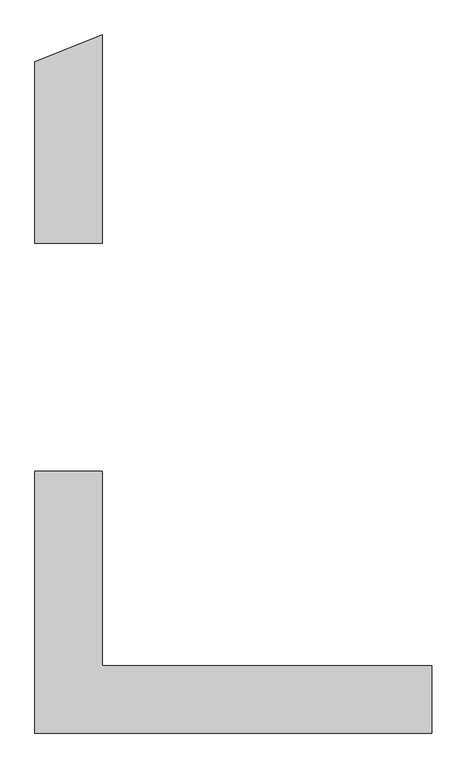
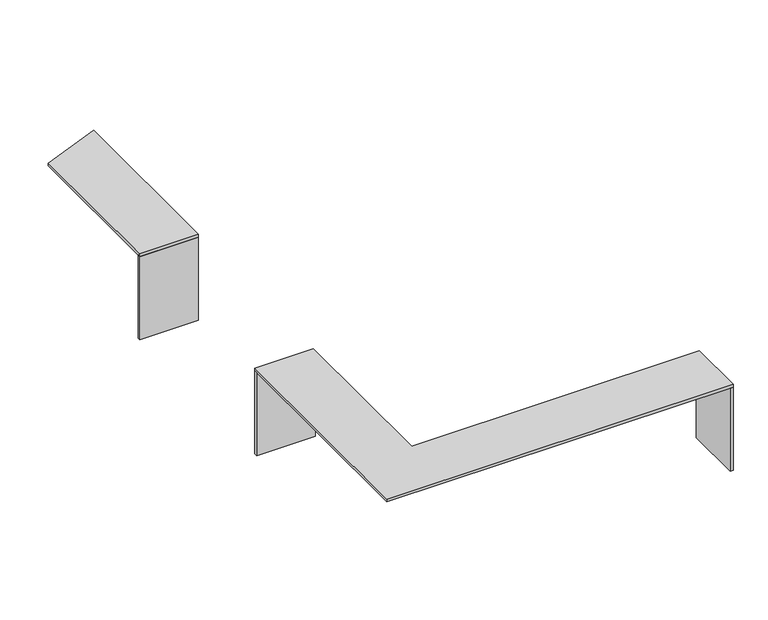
"""IFC4 building model written with IfcOpenShell, lengths in millimetres: furniture geometry, BIMHealth-MRI_Benching-LOD2A-v1 : BIMHealth-MRI_Benching-LOD2A-v1."""

import ifcopenshell
import ifcopenshell.guid

model = None  # the IFC model being written
_history = None  # IfcOwnerHistory: only IFC2X3 demands one
_inside = {}  # id of a spatial element -> (the spatial element, [elements in it])
_under = {}  # id of a project, library or spatial element -> (it, [spatial elements below it])
_declared = {}  # id of a project -> (the project, [libraries it declares])
_typed = {}  # id of a type object -> (the type object, [elements of that type])
_made_of = {}  # id of a material, layer set ... -> (it, [elements and type objects made of it])


def new_model(schema):
    """Start an empty IFC model of exactly this schema.

    Asked for "IFC4X3", IfcOpenShell would pick the latest addendum, in which some entities
    have other attributes; the version numbers below select the first issue.
    IFC2X3 requires an IfcOwnerHistory on every rooted entity: one is made here for all.
    """
    global model, _history
    if schema == "IFC4X3":
        model = ifcopenshell.file(schema_version=(4, 3, 0, 0))
    else:
        model = ifcopenshell.file(schema=schema)
    _inside.clear()
    _under.clear()
    _declared.clear()
    _typed.clear()
    _made_of.clear()
    _history = None
    if model.schema == "IFC2X3":
        org = make("IfcOrganization", Name="unknown")
        user = make(
            "IfcPersonAndOrganization",
            ThePerson=make("IfcPerson", FamilyName="unknown"),
            TheOrganization=org,
        )
        app = make(
            "IfcApplication",
            ApplicationDeveloper=org,
            Version="unknown",
            ApplicationFullName="unknown",
            ApplicationIdentifier="unknown",
        )
        _history = make(
            "IfcOwnerHistory",
            OwningUser=user,
            OwningApplication=app,
            ChangeAction="ADDED",
            CreationDate=0,
        )
    return model


def make(cls, **values):
    """One entity of the class cls with the attributes given. An attribute that is None is left unset."""
    return model.create_entity(
        cls, **{name: value for name, value in values.items() if value is not None}
    )


def rooted(cls, **values):
    """An entity with a GlobalId (a new one), such as an element, a storey or a relation."""
    return make(cls, GlobalId=ifcopenshell.guid.new(), OwnerHistory=_history, **values)


def si_unit(unit_type, name, prefix=None):
    """IfcSIUnit, for example si_unit("LENGTHUNIT", "METRE", prefix="MILLI")."""
    return make("IfcSIUnit", UnitType=unit_type, Prefix=prefix, Name=name)


def assignment(units):
    """IfcUnitAssignment: the units of a project."""
    return None if units is None else make("IfcUnitAssignment", Units=units)


def point(xyz):
    """IfcCartesianPoint."""
    return None if xyz is None else make("IfcCartesianPoint", Coordinates=xyz)


def direction(xyz):
    """IfcDirection."""
    return None if xyz is None else make("IfcDirection", DirectionRatios=xyz)


def frame(location, z_axis=None, x_axis=None):
    """IfcAxis2Placement3D, a coordinate frame: its origin and axes. An axis left out is left unset."""
    return make(
        "IfcAxis2Placement3D",
        Location=point(location),
        Axis=direction(z_axis),
        RefDirection=direction(x_axis),
    )


def origin():
    """The frame at (0, 0, 0) with its axes left unset."""
    return frame((0.0, 0.0, 0.0))


def origin_with_axes():
    """The frame at (0, 0, 0) with the z axis (0, 0, 1) and the x axis (1, 0, 0) written out."""
    return frame((0.0, 0.0, 0.0), z_axis=(0.0, 0.0, 1.0), x_axis=(1.0, 0.0, 0.0))


def place(relative_to, where):
    """IfcLocalPlacement: puts the frame where relative to a parent placement (None: the world)."""
    return make(
        "IfcLocalPlacement", PlacementRelTo=relative_to, RelativePlacement=where
    )


def context(
    kind, dimensions, precision=None, world=None, true_north=None, identifier=None
):
    """IfcGeometricRepresentationContext, for example the 3D "Model" context."""
    return make(
        "IfcGeometricRepresentationContext",
        ContextIdentifier=identifier,
        ContextType=kind,
        CoordinateSpaceDimension=dimensions,
        Precision=precision,
        WorldCoordinateSystem=world,
        TrueNorth=true_north,
    )


def project(units=None, contexts=None):
    """IfcProject with its units and contexts."""
    return rooted(
        "IfcProject",
        Name="project",
        RepresentationContexts=contexts,
        UnitsInContext=assignment(units),
    )


def spatial(cls, under=None, at=None, **own):
    """A site, building, storey or space (cls), placed at a placement, below another one or the project."""
    s = rooted(cls, ObjectPlacement=at, **own)
    if under is not None:
        _under.setdefault(under.id(), (under, []))[1].append(s)
    return s


def polyline(points):
    """IfcPolyline through the points."""
    return make("IfcPolyline", Points=[point(p) for p in points])


def outline(outer, holes=None, kind="AREA"):
    """IfcArbitraryClosedProfileDef: a profile drawn as a closed curve; with holes, ...WithVoids."""
    if holes is None:
        return make("IfcArbitraryClosedProfileDef", ProfileType=kind, OuterCurve=outer)
    return make(
        "IfcArbitraryProfileDefWithVoids",
        ProfileType=kind,
        OuterCurve=outer,
        InnerCurves=holes,
    )


def extrude(swept, where, along, depth):
    """IfcExtrudedAreaSolid: the profile swept, set in the frame where, extruded along a direction by depth."""
    return make(
        "IfcExtrudedAreaSolid",
        SweptArea=swept,
        Position=where,
        ExtrudedDirection=direction(along),
        Depth=depth,
    )


def shape(context_of_items, identifier, shape_type, items):
    """IfcShapeRepresentation: the items that make up one representation, for example the "Body"."""
    return make(
        "IfcShapeRepresentation",
        ContextOfItems=context_of_items,
        RepresentationIdentifier=identifier,
        RepresentationType=shape_type,
        Items=items,
    )


def source(mapping_origin, context_of_items, identifier, shape_type, items):
    """IfcRepresentationMap: a shape defined once, which mapped items show again and again."""
    return make(
        "IfcRepresentationMap",
        MappingOrigin=mapping_origin,
        MappedRepresentation=shape(context_of_items, identifier, shape_type, items),
    )


def transform(
    local_origin,
    x_axis=None,
    y_axis=None,
    z_axis=None,
    scale=None,
    scale2=None,
    scale3=None,
    uniform=True,
):
    """IfcCartesianTransformationOperator3D, or its non-uniform kind. x_axis, y_axis, z_axis: its Axis1, 2, 3."""
    if uniform:
        return make(
            "IfcCartesianTransformationOperator3D",
            Axis1=direction(x_axis),
            Axis2=direction(y_axis),
            LocalOrigin=point(local_origin),
            Scale=scale,
            Axis3=direction(z_axis),
        )
    return make(
        "IfcCartesianTransformationOperator3DnonUniform",
        Axis1=direction(x_axis),
        Axis2=direction(y_axis),
        LocalOrigin=point(local_origin),
        Scale=scale,
        Axis3=direction(z_axis),
        Scale2=scale2,
        Scale3=scale3,
    )


def mapped(mapping_source, mapping_target):
    """IfcMappedItem: shows the shape of a source again, moved by a transform."""
    return make(
        "IfcMappedItem", MappingSource=mapping_source, MappingTarget=mapping_target
    )


def made_of(thing, what):
    """Note that an element or type object is made of a material, layer set ...; save() writes the relation."""
    if what is not None:
        _made_of.setdefault(what.id(), (what, []))[1].append(thing)
    return thing


def element(
    cls,
    number,
    at=None,
    inside=None,
    cuts=None,
    type_object=None,
    material=None,
    context=None,
    identifier="Body",
    shape_type=None,
    held_by="IfcProductDefinitionShape",
    body=None,
    shapes=None,
    **own,
):
    """One element of the class cls, such as IfcWall. Its Tag is "e" and its number.

    at: its placement. inside: the storey or other place that contains it. cuts: it is an
    opening in that element (IfcRelVoidsElement). A single representation is given by context,
    identifier, shape_type and body (its items); several are given by shapes. held_by: the class
    of the entity that holds the representations. save() writes the other relations.
    """
    e = rooted(cls, Tag="e%d" % number, ObjectPlacement=at, **own)
    if body is not None:
        shapes = [shape(context, identifier, shape_type, body)]
    if shapes is not None:
        e.Representation = make(held_by, Representations=shapes)
    if inside is not None:
        _inside.setdefault(inside.id(), (inside, []))[1].append(e)
    if cuts is not None:
        rooted(
            "IfcRelVoidsElement", RelatingBuildingElement=cuts, RelatedOpeningElement=e
        )
    if type_object is not None:
        _typed.setdefault(type_object.id(), (type_object, []))[1].append(e)
    return made_of(e, material)


def aggregate(whole, parts):
    """IfcRelAggregates: a whole, such as a stair, and the parts it consists of."""
    return rooted("IfcRelAggregates", RelatingObject=whole, RelatedObjects=parts)


def save(model, path):
    """Write the relations noted so far, then the file.

    IfcRelAggregates (storeys below a building ...), IfcRelContainedInSpatialStructure (elements
    in a storey), IfcRelDefinesByType, IfcRelAssociatesMaterial and IfcRelDeclares: one each for
    every whole, place, type object, material and project.
    """
    for whole, parts in _under.values():
        aggregate(whole, parts)
    for where, things in _inside.values():
        rooted(
            "IfcRelContainedInSpatialStructure",
            RelatedElements=things,
            RelatingStructure=where,
        )
    for kind, things in _typed.values():
        rooted("IfcRelDefinesByType", RelatedObjects=things, RelatingType=kind)
    for what, things in _made_of.values():
        rooted("IfcRelAssociatesMaterial", RelatedObjects=things, RelatingMaterial=what)
    for by, libraries in _declared.values():
        rooted("IfcRelDeclares", RelatingContext=by, RelatedDefinitions=libraries)
    model.write(path)


def furniture_5e5f2486(model_context):
    return source(origin(), model_context, "Body", "SweptSolid", [
        extrude(outline(polyline([(1482.5, -1450.0), (1507.5, -1450.0), (1507.5, -1950.0), (1482.5, -1950.0), (1482.5, -1450.0)])), origin_with_axes(), (0.0, 0.0, 1.0), 750.0),
        extrude(outline(polyline([(-947.5, 1725.0), (-947.5, 1700.0), (-1447.5, 1700.0), (-1447.5, 1725.0), (-947.5, 1725.0)])), origin_with_axes(), (0.0, 0.0, 1.0), 750.0),
        extrude(outline(polyline([(-947.5, 0.0), (-947.5, -25.0), (-1447.5, -25.0), (-1447.5, 0.0), (-947.5, 0.0)])), origin_with_axes(), (0.0, 0.0, 1.0), 750.0),
        extrude(outline(polyline([(-947.5, 0.0), (-947.5, -1450.0), (1507.5, -1450.0), (1507.5, -1950.0), (-1447.5, -1950.0), (-1447.5, 0.0), (-947.5, 0.0)])), frame((0.0, 0.0, 750.0), z_axis=(0.0, 0.0, 1.0), x_axis=(1.0, 0.0, 0.0)), (0.0, 0.0, 1.0), 25.0),
        extrude(outline(polyline([(-1447.5, 1700.0), (-1447.5, 3050.0), (-947.5, 3250.0), (-947.5, 1700.0), (-1447.5, 1700.0)])), frame((0.0, 0.0, 750.0), z_axis=(0.0, 0.0, 1.0), x_axis=(1.0, 0.0, 0.0)), (0.0, 0.0, 1.0), 25.0),
    ])


if __name__ == "__main__":
    model = new_model("IFC4")
    model_context = context("Model", 3, world=origin())
    ifc_project = project(units=[si_unit("LENGTHUNIT", "METRE", prefix="MILLI")], contexts=[model_context])
    site = spatial("IfcSite", under=ifc_project)
    building = spatial("IfcBuilding", under=site)
    placement = place(None, origin())
    furniture_shape = furniture_5e5f2486(model_context)
    element("IfcFurniture", 1, ObjectType="BIMHealth-MRI_Benching-LOD2A-v1 : BIMHealth-MRI_Benching-LOD2A-v1", at=placement, inside=building, context=model_context, shape_type="MappedRepresentation", body=[
        mapped(furniture_shape, transform((0.0, 0.0, 0.0), x_axis=(1.0, 0.0, 0.0), y_axis=(0.0, 1.0, 0.0), z_axis=(0.0, 0.0, 1.0))),
    ])
    save(model, "model.ifc")
